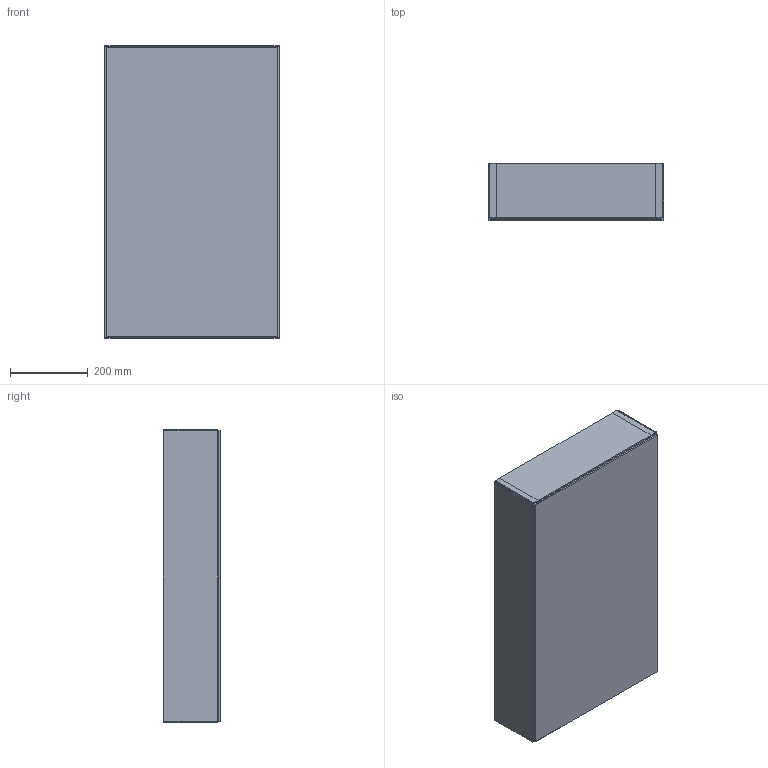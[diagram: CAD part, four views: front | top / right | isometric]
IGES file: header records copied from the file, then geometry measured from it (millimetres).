
Start section: Data from Parasolid IGES Translator 19.0.9, Copyright(c) 2006 Siemens PL M Software. All Rights Reserved.
Global section: file name: noorth-mirror-H 75 D 14,7 W 45_9052.igs; native system: By Siemens PLM Incorporated; preprocessor: XPlus GENERIC/IGES 19.0.9; author: Noname; organization: Noname; date: 20200519.094629; units: metre
Bounding box: 449.82 x 147 x 750 mm (x, y, z)
Volume: 9732110.4 mm3; surface area: 2690846.4 mm2
Topology: 11 solids, 11 shells, 170 faces, 324 edges, 176 vertices
Faces by surface type: plane 170
